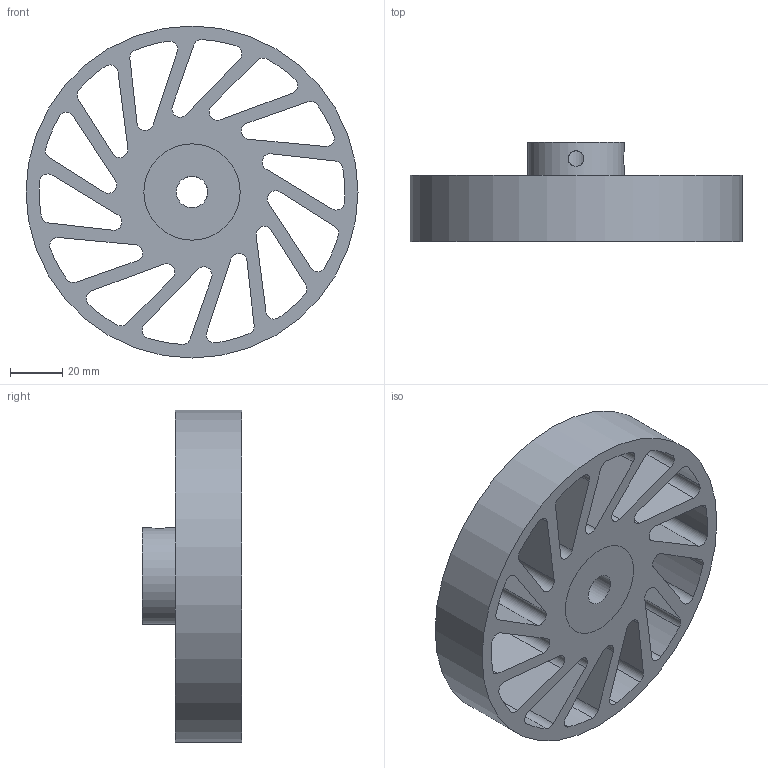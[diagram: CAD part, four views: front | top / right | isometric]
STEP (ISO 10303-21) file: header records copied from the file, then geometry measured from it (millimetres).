
FILE_DESCRIPTION(/* description */ (''),/* implementation_level */ '2;1');
FILE_NAME(/* name */ 'NCWM-450-XXX-YYY.stp',/* time_stamp */ '2023-02-02T16:32:17-06:00',/* author */ ('AG'),/* organization */ ('Meridian Laboratory'),/* preprocessor_version */ 'ST-DEVELOPER v18.1',/* originating_system */ 'Autodesk Inventor 2022',/* authorisation */ '');
FILE_SCHEMA (('AUTOMOTIVE_DESIGN { 1 0 10303 214 3 1 1 }'));
Length unit declared in the file: millimetre
Products named in the file (1): NCWM-440
Bounding box: 127 x 38.1 x 127 mm (x, y, z)
Volume: 188911.4 mm3; surface area: 64013.5 mm2
Topology: 2 solids, 2 shells, 94 faces, 276 edges, 186 vertices
Faces by surface type: cylinder 62, plane 32
Full cylindrical faces by diameter (mm): 6 x2, 12.025 x1, 36.83 x2, 127 x1
Entity records: 3528 total; most frequent: CARTESIAN_POINT 697, DIRECTION 576, ORIENTED_EDGE 552, EDGE_CURVE 276, AXIS2_PLACEMENT_3D 215, VERTEX_POINT 186, LINE 146, VECTOR 146
